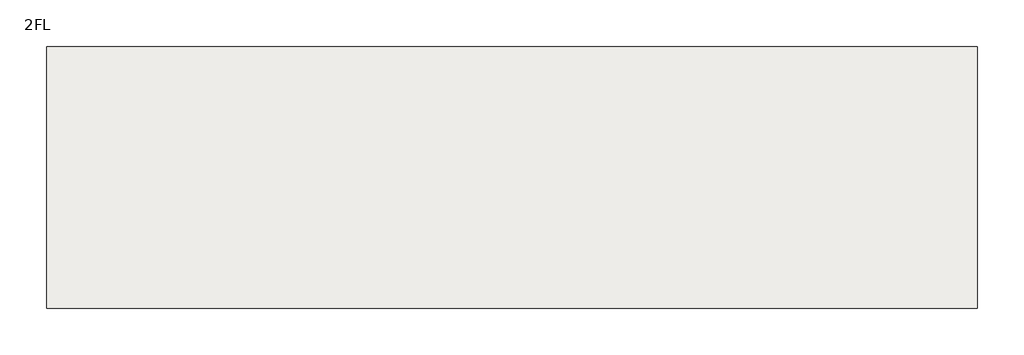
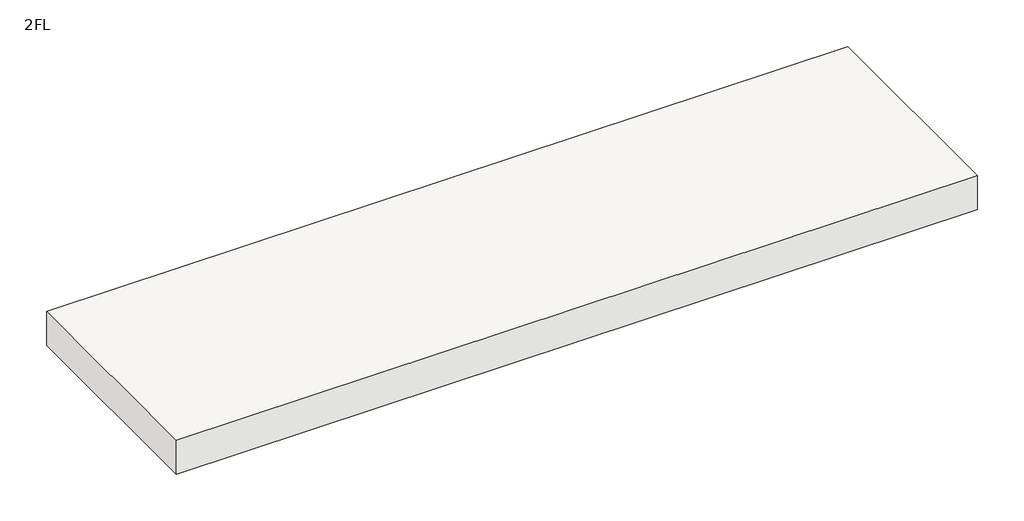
# One storey: 1 slab.
"""IFC4 building model written with IfcOpenShell, lengths in millimetres."""

from ifc_helpers import new_model, si_unit, frame, origin, place, context, project, spatial, polyline, outline, extrude, element, save

model = new_model("IFC4")

# Units and contexts
model_context = context("Model", 3, world=origin())
ifc_project = project(units=[si_unit("LENGTHUNIT", "METRE", prefix="MILLI")], contexts=[model_context])

# Site, building, storey
site = spatial("IfcSite", under=ifc_project)
building = spatial("IfcBuilding", under=site)
storey = spatial("IfcBuildingStorey", under=building, Name="2FL", Elevation=3330.0)

# Slab
placement = place(None, origin())
element("IfcSlab", 1, ObjectType="一般 - 15cm", at=placement, inside=storey, context=model_context, shape_type="SweptSolid", body=[
    extrude(outline(polyline([(-2288.8155555, -4240.9301269), (-2288.8155555, -5180.9301263), (-5633.8155559, -5180.9301263), (-5633.8155559, -4240.9301269), (-2288.8155555, -4240.9301269)])), frame((0.0, 0.0, 3180.0), z_axis=(0.0, 0.0, 1.0), x_axis=(1.0, 0.0, 0.0)), (0.0, 0.0, 1.0), 150.0),
])

save(model, "model.ifc")
